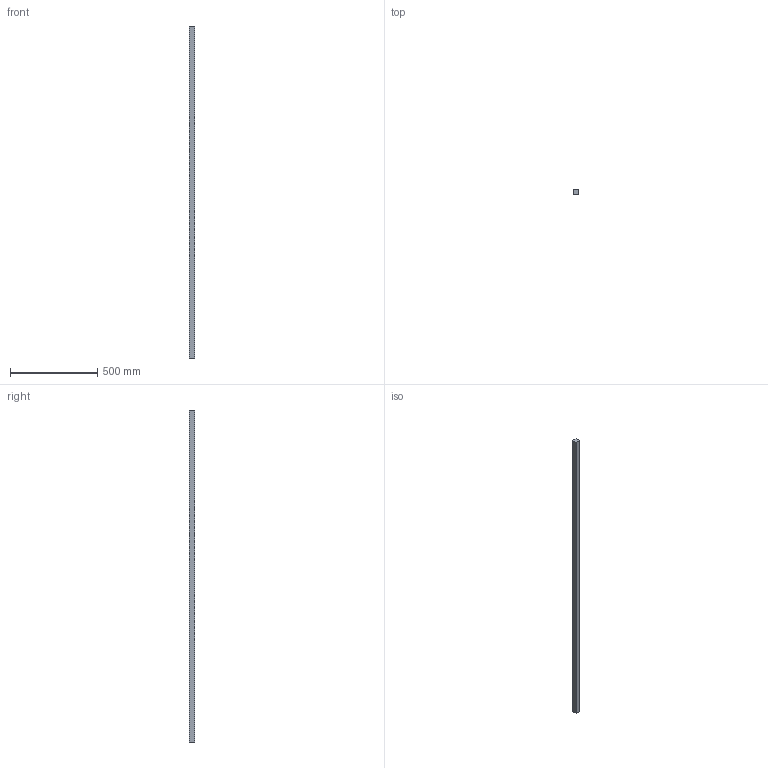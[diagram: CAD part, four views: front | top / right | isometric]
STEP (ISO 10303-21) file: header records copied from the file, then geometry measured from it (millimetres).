
FILE_DESCRIPTION(('Open CASCADE Model'),'2;1');
FILE_NAME('Open CASCADE Shape Model','2026-03-30T20:16:05',('Author'),( 'Open CASCADE'),'Open CASCADE STEP processor 7.8','Open CASCADE 7.8' ,'Unknown');
FILE_SCHEMA(('AUTOMOTIVE_DESIGN { 1 0 10303 214 1 1 1 1 }'));
Length unit declared in the file: millimetre
Products named in the file (1): Open CASCADE STEP translator 7.8 13
Bounding box: 30 x 30 x 1900 mm (x, y, z)
Volume: 1710000 mm3; surface area: 229800 mm2
Topology: 1 solids, 1 shells, 6 faces, 12 edges, 8 vertices
Faces by surface type: plane 6
Entity records: 322 total; most frequent: CARTESIAN_POINT 51, DIRECTION 50, LINE 36, VECTOR 36, ORIENTED_EDGE 24, PCURVE 24, DEFINITIONAL_REPRESENTATION 24, EDGE_CURVE 12
